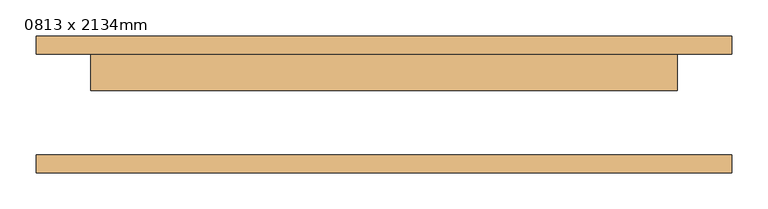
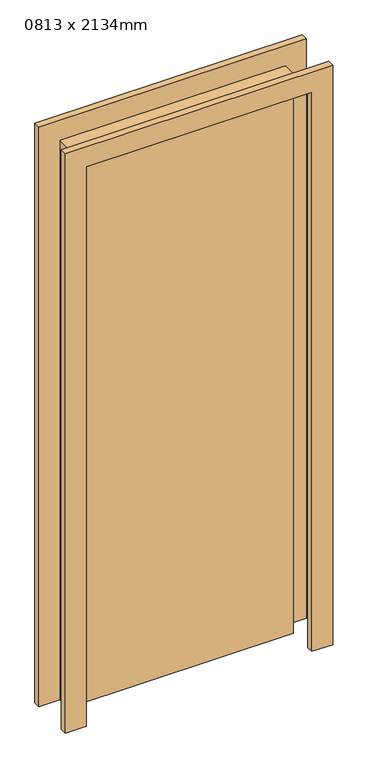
"""IFC4 building model written with IfcOpenShell, lengths in millimetres: door geometry, Whiterock single door : 0813 x 2134mm."""

from ifc_helpers import new_model, si_unit, frame, origin, origin_with_axes, place, context, project, spatial, polyline, outline, extrude, source, transform, mapped, element, save


def door_0813_x_2134mm_88d946ac(model_context):
    return source(origin(), model_context, "Body", "SweptSolid", [
        extrude(outline(polyline([(2210.0, -482.5), (0.0, -482.5), (0.0, -406.5), (2134.0, -406.5), (2134.0, 406.5), (0.0, 406.5), (0.0, 482.5), (2210.0, 482.5), (2210.0, -482.5)])), frame((0.0, 70.0, 0.0), z_axis=(0.0, 1.0, 0.0), x_axis=(0.0, 0.0, 1.0)), (0.0, 0.0, 1.0), 25.0),
        extrude(outline(polyline([(2210.0, 482.5), (2210.0, -482.5), (0.0, -482.5), (0.0, -406.5), (2134.0, -406.5), (2134.0, 406.5), (0.0, 406.5), (0.0, 482.5), (2210.0, 482.5)])), frame((0.0, -95.0, 0.0), z_axis=(0.0, 1.0, 0.0), x_axis=(0.0, 0.0, 1.0)), (0.0, 0.0, 1.0), 25.0),
        extrude(outline(polyline([(406.5, 19.0), (-406.5, 19.0), (-406.5, 70.0), (406.5, 70.0), (406.5, 19.0)])), origin_with_axes(), (0.0, 0.0, 1.0), 2134.0),
    ])


if __name__ == "__main__":
    model = new_model("IFC4")
    model_context = context("Model", 3, world=origin())
    ifc_project = project(units=[si_unit("LENGTHUNIT", "METRE", prefix="MILLI")], contexts=[model_context])
    site = spatial("IfcSite", under=ifc_project)
    building = spatial("IfcBuilding", under=site)
    placement = place(None, origin())
    door_0813_x_2134mm_shape = door_0813_x_2134mm_88d946ac(model_context)
    element("IfcDoor", 1, ObjectType="Whiterock single door : 0813 x 2134mm", at=placement, inside=building, context=model_context, shape_type="MappedRepresentation", body=[
        mapped(door_0813_x_2134mm_shape, transform((0.0, 0.0, 0.0), x_axis=(1.0, 0.0, 0.0), y_axis=(0.0, 1.0, 0.0), z_axis=(0.0, 0.0, 1.0))),
    ])
    save(model, "model.ifc")
